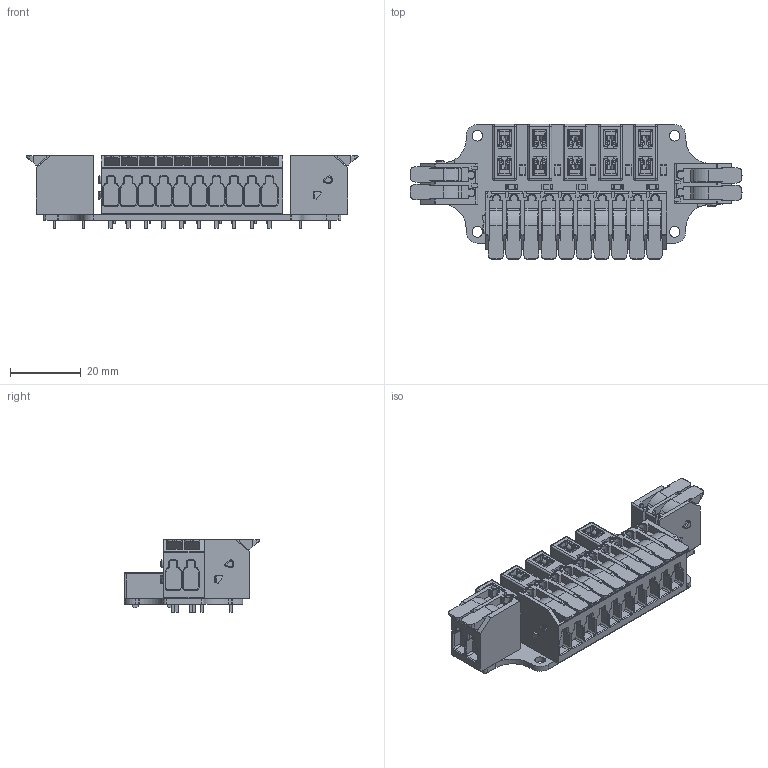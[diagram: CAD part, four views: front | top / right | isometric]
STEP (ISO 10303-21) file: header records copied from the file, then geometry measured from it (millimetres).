
FILE_DESCRIPTION(('KiCad electronic assembly'),'2;1');
FILE_NAME('mini-pdb.step','2025-01-05T10:18:25',('Pcbnew'),('Kicad'), 'Open CASCADE STEP processor 7.6','KiCad to STEP converter','Unknown' );
FILE_SCHEMA(('AUTOMOTIVE_DESIGN { 1 0 10303 214 1 1 1 1 }'));
Length unit declared in the file: millimetre
Products named in the file (12): mini-pdb 1; Keystone-3568; 3568; LED_1206_3216Metric; R_1206_3216Metric; WAGO-2604-1102; 2604-1102; WAGO-2604-1110; 2604-1110; mini-pdb_PCB
Assembly tree (24 placements, depth 3):
  mini-pdb 1
    Keystone-3568  x5
      3568
    LED_1206_3216Metric  x5
      LED_1206_3216Metric
    R_1206_3216Metric  x5
      R_1206_3216Metric
    WAGO-2604-1102  x2
      2604-1102
    WAGO-2604-1110
      2604-1110
    mini-pdb_PCB
Bounding box: 94.16 x 38.39 x 20.7 mm (x, y, z)
Volume: 24268.4 mm3; surface area: 23899.5 mm2
Topology: 29 solids, 29 shells, 3412 faces, 8985 edges, 5704 vertices
Faces by surface type: plane 2214, cylinder 841, cone 177, sphere 100, torus 40, revolution 40
Full cylindrical faces by diameter (mm): 1.397 x28, 1.6 x20, 3 x4
Entity records: 64501 total; most frequent: CARTESIAN_POINT 10130, ORIENTED_EDGE 9344, DIRECTION 9298, EDGE_CURVE 4672, LINE 3210, VECTOR 3210, AXIS2_PLACEMENT_3D 3040, VERTEX_POINT 2996
